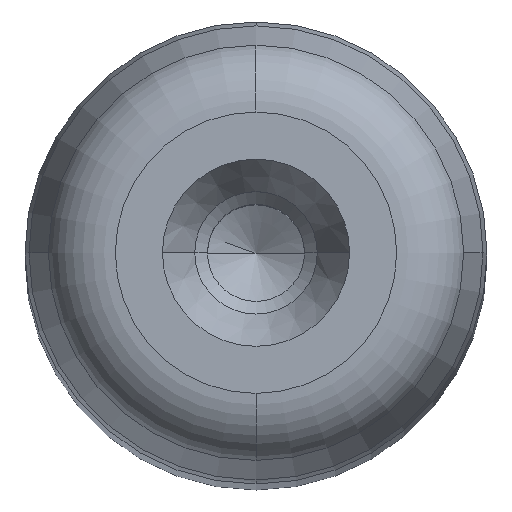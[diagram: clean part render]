
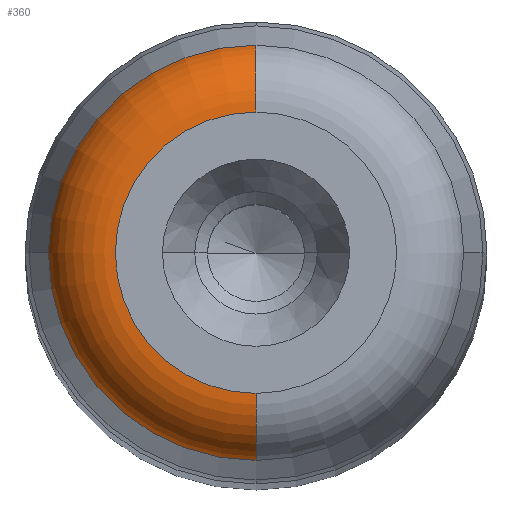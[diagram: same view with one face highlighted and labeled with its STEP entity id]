
A CAD part, top view. The second image highlights one B-rep face of the part: STEP entity #360.
In plain terms, the highlighted toroidal (fillet/blend) face has major radius 6.09 mm and minor radius 3 mm.
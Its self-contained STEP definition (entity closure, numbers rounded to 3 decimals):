
#308=CARTESIAN_POINT('',(0.0,157.,0.0));
#309=DIRECTION('',(0.0,1.0,0.0));
#310=DIRECTION('',(0.0,0.0,1.0));
#311=AXIS2_PLACEMENT_3D('',#308,#309,#310);
#312=TOROIDAL_SURFACE('',#311,6.09,3.0);
#313=CARTESIAN_POINT('',(0.0,160.,6.09));
#314=VERTEX_POINT('',#313);
#315=CARTESIAN_POINT('',(0.0,157.776,8.988));
#316=VERTEX_POINT('',#315);
#317=CARTESIAN_POINT('',(0.0,157.,6.09));
#318=DIRECTION('',(1.0,0.0,0.0));
#319=DIRECTION('',(0.0,0.0,1.0));
#320=AXIS2_PLACEMENT_3D('',#317,#318,#319);
#321=CIRCLE('',#320,3.0);
#322=EDGE_CURVE('',#314,#316,#321,.T.);
#323=ORIENTED_EDGE('',*,*,#322,.F.);
#324=CARTESIAN_POINT('',(0.,160.,-6.09));
#325=VERTEX_POINT('',#324);
#326=CARTESIAN_POINT('',(0.0,160.,0.0));
#327=DIRECTION('',(0.0,1.0,0.0));
#328=DIRECTION('',(1.0,0.0,0.0));
#329=AXIS2_PLACEMENT_3D('',#326,#327,#328);
#330=CIRCLE('',#329,6.09);
#331=EDGE_CURVE('',#325,#314,#330,.T.);
#332=ORIENTED_EDGE('',*,*,#331,.F.);
#333=CARTESIAN_POINT('',(0.,157.776,-8.988));
#334=VERTEX_POINT('',#333);
#335=CARTESIAN_POINT('',(0.,157.,-6.09));
#336=DIRECTION('',(-1.0,0.0,0.0));
#337=DIRECTION('',(0.0,0.0,-1.0));
#338=AXIS2_PLACEMENT_3D('',#335,#336,#337);
#339=CIRCLE('',#338,3.0);
#340=EDGE_CURVE('',#325,#334,#339,.T.);
#341=ORIENTED_EDGE('',*,*,#340,.T.);
#342=CARTESIAN_POINT('',(-8.988,157.776,0.));
#343=VERTEX_POINT('',#342);
#344=CARTESIAN_POINT('',(0.0,157.776,0.0));
#345=DIRECTION('',(0.0,1.0,0.0));
#346=DIRECTION('',(1.0,0.0,0.0));
#347=AXIS2_PLACEMENT_3D('',#344,#345,#346);
#348=CIRCLE('',#347,8.988);
#349=EDGE_CURVE('',#334,#343,#348,.T.);
#350=ORIENTED_EDGE('',*,*,#349,.T.);
#351=CARTESIAN_POINT('',(0.0,157.776,0.0));
#352=DIRECTION('',(0.0,1.0,0.0));
#353=DIRECTION('',(1.0,0.0,0.0));
#354=AXIS2_PLACEMENT_3D('',#351,#352,#353);
#355=CIRCLE('',#354,8.988);
#356=EDGE_CURVE('',#343,#316,#355,.T.);
#357=ORIENTED_EDGE('',*,*,#356,.T.);
#358=EDGE_LOOP('',(#323,#332,#341,#350,#357));
#359=FACE_OUTER_BOUND('',#358,.T.);
#360=ADVANCED_FACE('',(#359),#312,.T.);
